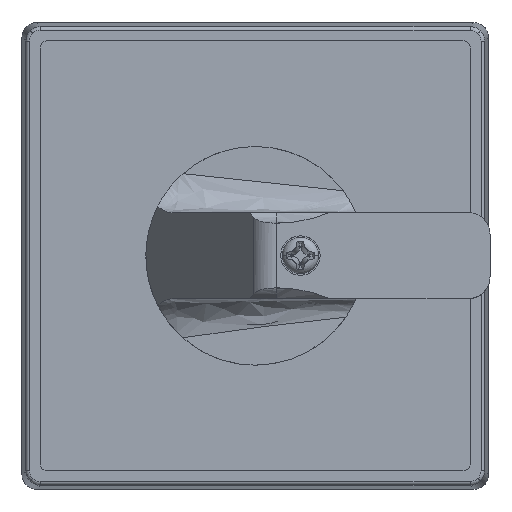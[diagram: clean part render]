
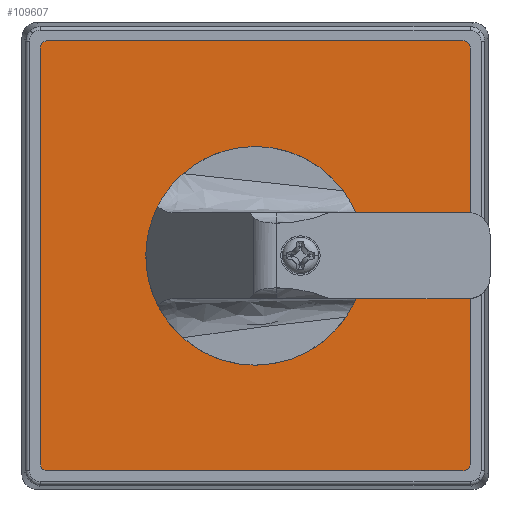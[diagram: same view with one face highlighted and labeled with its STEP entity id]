
A CAD part, top view. The second image highlights one B-rep face of the part: STEP entity #109607.
In plain terms, the highlighted planar face has unit normal (0, 0, 1).
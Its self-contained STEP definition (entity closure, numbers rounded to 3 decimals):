
#297 = DIRECTION ( 'NONE',  ( -1., 0., 0. ) ) ;
#565 = ORIENTED_EDGE ( 'NONE', *, *, #144214, .T. ) ;
#1581 = CARTESIAN_POINT ( 'NONE',  ( -23.139, -33.611, -122.282 ) ) ;
#2408 = DIRECTION ( 'NONE',  ( 1., 0., 0. ) ) ;
#4094 = CARTESIAN_POINT ( 'NONE',  ( 35.861, -33.611, -122.282 ) ) ;
#7700 = LINE ( 'NONE', #96355, #146731 ) ;
#9318 = VERTEX_POINT ( 'NONE', #111116 ) ;
#9976 = AXIS2_PLACEMENT_3D ( 'NONE', #98453, #97924, #88000 ) ;
#10338 = EDGE_CURVE ( 'NONE', #123156, #56888, #80444, .T. ) ;
#13158 = VERTEX_POINT ( 'NONE', #113785 ) ;
#16107 = ORIENTED_EDGE ( 'NONE', *, *, #67798, .T. ) ;
#17068 = AXIS2_PLACEMENT_3D ( 'NONE', #94057, #21942, #152163 ) ;
#18267 = LINE ( 'NONE', #107273, #21967 ) ;
#21942 = DIRECTION ( 'NONE',  ( 0., 0., 1. ) ) ;
#21967 = VECTOR ( 'NONE', #117634, 1000. ) ;
#24746 = DIRECTION ( 'NONE',  ( 0., 0., 1. ) ) ;
#26659 = ORIENTED_EDGE ( 'NONE', *, *, #56915, .F. ) ;
#26784 = AXIS2_PLACEMENT_3D ( 'NONE', #135844, #113035, #112538 ) ;
#28691 = CARTESIAN_POINT ( 'NONE',  ( 35.861, -33.611, -122.282 ) ) ;
#29413 = PLANE ( 'NONE',  #26784 ) ;
#30991 = CIRCLE ( 'NONE', #149954, 1. ) ;
#31236 = VERTEX_POINT ( 'NONE', #58268 ) ;
#32030 = AXIS2_PLACEMENT_3D ( 'NONE', #41806, #53806, #92742 ) ;
#36285 = VERTEX_POINT ( 'NONE', #52459 ) ;
#36634 = DIRECTION ( 'NONE',  ( 0., 1., 0. ) ) ;
#38235 = LINE ( 'NONE', #28691, #93989 ) ;
#39108 = DIRECTION ( 'NONE',  ( 0., 0., 1. ) ) ;
#41806 = CARTESIAN_POINT ( 'NONE',  ( 6.361, -5.111, -122.282 ) ) ;
#42969 = CIRCLE ( 'NONE', #17068, 1. ) ;
#43294 = ORIENTED_EDGE ( 'NONE', *, *, #134478, .T. ) ;
#45410 = VERTEX_POINT ( 'NONE', #144683 ) ;
#48980 = ORIENTED_EDGE ( 'NONE', *, *, #101019, .T. ) ;
#52459 = CARTESIAN_POINT ( 'NONE',  ( -22.139, -34.611, -122.282 ) ) ;
#52753 = ORIENTED_EDGE ( 'NONE', *, *, #77184, .T. ) ;
#53368 = CIRCLE ( 'NONE', #32030, 10.35 ) ;
#53806 = DIRECTION ( 'NONE',  ( 0., 0., 1. ) ) ;
#56042 = ORIENTED_EDGE ( 'NONE', *, *, #99502, .T. ) ;
#56888 = VERTEX_POINT ( 'NONE', #89101 ) ;
#56915 = EDGE_CURVE ( 'NONE', #56888, #123156, #53368, .T. ) ;
#58268 = CARTESIAN_POINT ( 'NONE',  ( -23.139, 23.389, -122.282 ) ) ;
#63392 = CIRCLE ( 'NONE', #142323, 1. ) ;
#64557 = DIRECTION ( 'NONE',  ( 0., 1., 0. ) ) ;
#67798 = EDGE_CURVE ( 'NONE', #36285, #13158, #7700, .T. ) ;
#68689 = EDGE_LOOP ( 'NONE', ( #43294, #565, #52753, #16107, #56042, #48980, #89688, #133804 ) ) ;
#73517 = CARTESIAN_POINT ( 'NONE',  ( -22.139, 23.389, -122.282 ) ) ;
#74458 = DIRECTION ( 'NONE',  ( 0., -1., 0. ) ) ;
#77184 = EDGE_CURVE ( 'NONE', #87041, #36285, #63392, .T. ) ;
#80444 = CIRCLE ( 'NONE', #94118, 10.35 ) ;
#82374 = FACE_BOUND ( 'NONE', #123725, .T. ) ;
#85876 = CARTESIAN_POINT ( 'NONE',  ( -22.139, -33.611, -122.282 ) ) ;
#87041 = VERTEX_POINT ( 'NONE', #1581 ) ;
#88000 = DIRECTION ( 'NONE',  ( 0., -1., 0. ) ) ;
#88788 = CIRCLE ( 'NONE', #9976, 1. ) ;
#89101 = CARTESIAN_POINT ( 'NONE',  ( 6.361, 5.239, -122.282 ) ) ;
#89688 = ORIENTED_EDGE ( 'NONE', *, *, #109995, .T. ) ;
#92742 = DIRECTION ( 'NONE',  ( 0., 1., 0. ) ) ;
#92894 = VERTEX_POINT ( 'NONE', #4094 ) ;
#92955 = CARTESIAN_POINT ( 'NONE',  ( 6.361, -5.111, -122.282 ) ) ;
#93989 = VECTOR ( 'NONE', #64557, 1000. ) ;
#94057 = CARTESIAN_POINT ( 'NONE',  ( 34.861, -33.611, -122.282 ) ) ;
#94118 = AXIS2_PLACEMENT_3D ( 'NONE', #92955, #103932, #116829 ) ;
#95402 = CARTESIAN_POINT ( 'NONE',  ( 6.361, -15.461, -122.282 ) ) ;
#96355 = CARTESIAN_POINT ( 'NONE',  ( -22.139, -34.611, -122.282 ) ) ;
#97924 = DIRECTION ( 'NONE',  ( 0., 0., 1. ) ) ;
#98453 = CARTESIAN_POINT ( 'NONE',  ( 34.861, 23.389, -122.282 ) ) ;
#99502 = EDGE_CURVE ( 'NONE', #13158, #92894, #42969, .T. ) ;
#100619 = CARTESIAN_POINT ( 'NONE',  ( 34.861, 24.389, -122.282 ) ) ;
#101019 = EDGE_CURVE ( 'NONE', #92894, #45410, #38235, .T. ) ;
#103932 = DIRECTION ( 'NONE',  ( 0., 0., 1. ) ) ;
#107217 = CARTESIAN_POINT ( 'NONE',  ( -22.139, 24.389, -122.282 ) ) ;
#107273 = CARTESIAN_POINT ( 'NONE',  ( -23.139, -33.611, -122.282 ) ) ;
#109607 = ADVANCED_FACE ( 'NONE', ( #113972, #82374 ), #29413, .T. ) ;
#109995 = EDGE_CURVE ( 'NONE', #45410, #111341, #88788, .T. ) ;
#111116 = CARTESIAN_POINT ( 'NONE',  ( -22.139, 24.389, -122.282 ) ) ;
#111341 = VERTEX_POINT ( 'NONE', #100619 ) ;
#112538 = DIRECTION ( 'NONE',  ( 0., 1., 0. ) ) ;
#113035 = DIRECTION ( 'NONE',  ( 0., 0., 1. ) ) ;
#113785 = CARTESIAN_POINT ( 'NONE',  ( 34.861, -34.611, -122.282 ) ) ;
#113972 = FACE_OUTER_BOUND ( 'NONE', #68689, .T. ) ;
#114231 = EDGE_CURVE ( 'NONE', #111341, #9318, #135823, .T. ) ;
#116829 = DIRECTION ( 'NONE',  ( 0., 1., 0. ) ) ;
#117634 = DIRECTION ( 'NONE',  ( 0., -1., 0. ) ) ;
#123156 = VERTEX_POINT ( 'NONE', #95402 ) ;
#123725 = EDGE_LOOP ( 'NONE', ( #149680, #26659 ) ) ;
#133804 = ORIENTED_EDGE ( 'NONE', *, *, #114231, .T. ) ;
#134478 = EDGE_CURVE ( 'NONE', #9318, #31236, #30991, .T. ) ;
#135823 = LINE ( 'NONE', #107217, #145046 ) ;
#135844 = CARTESIAN_POINT ( 'NONE',  ( -22.139, 23.389, -122.282 ) ) ;
#142323 = AXIS2_PLACEMENT_3D ( 'NONE', #85876, #39108, #74458 ) ;
#144214 = EDGE_CURVE ( 'NONE', #31236, #87041, #18267, .T. ) ;
#144683 = CARTESIAN_POINT ( 'NONE',  ( 35.861, 23.389, -122.282 ) ) ;
#145046 = VECTOR ( 'NONE', #297, 1000. ) ;
#146731 = VECTOR ( 'NONE', #2408, 1000. ) ;
#149680 = ORIENTED_EDGE ( 'NONE', *, *, #10338, .F. ) ;
#149954 = AXIS2_PLACEMENT_3D ( 'NONE', #73517, #24746, #36634 ) ;
#152163 = DIRECTION ( 'NONE',  ( 0., -1., 0. ) ) ;
